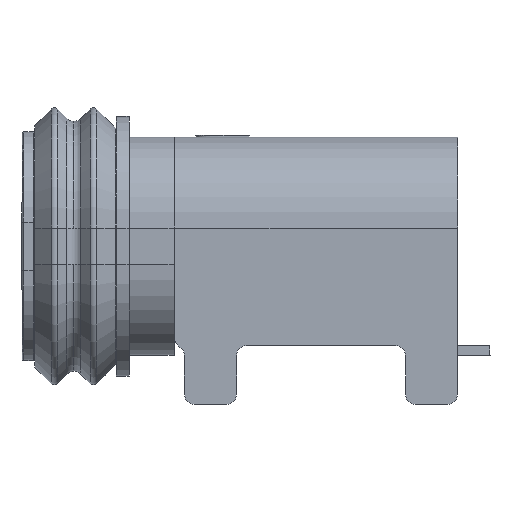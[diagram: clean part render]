
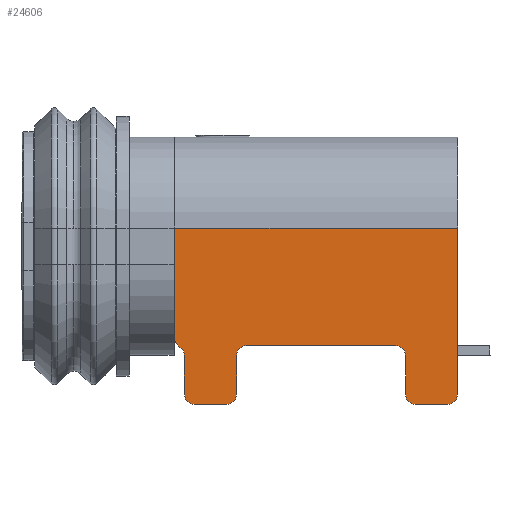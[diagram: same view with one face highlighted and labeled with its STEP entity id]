
A CAD part, left-side view. The second image highlights one B-rep face of the part: STEP entity #24606.
In plain terms, the highlighted planar face has unit normal (-1, 0, 0).
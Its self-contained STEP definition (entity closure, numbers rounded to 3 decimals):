
#211 = CIRCLE ( 'NONE', #9865, 0.15 ) ;
#238 = DIRECTION ( 'NONE',  ( 0., 1., 0. ) ) ;
#490 = ORIENTED_EDGE ( 'NONE', *, *, #16966, .T. ) ;
#864 = CARTESIAN_POINT ( 'NONE',  ( -87.767, 85.775, -4.01 ) ) ;
#873 = LINE ( 'NONE', #21529, #4610 ) ;
#1579 = VERTEX_POINT ( 'NONE', #19333 ) ;
#1948 = VERTEX_POINT ( 'NONE', #14050 ) ;
#1979 = CARTESIAN_POINT ( 'NONE',  ( -87.767, 85.825, -3.26 ) ) ;
#2303 = DIRECTION ( 'NONE',  ( 0., 0., 1. ) ) ;
#2373 = VERTEX_POINT ( 'NONE', #13507 ) ;
#2868 = CIRCLE ( 'NONE', #27558, 0.15 ) ;
#3166 = CARTESIAN_POINT ( 'NONE',  ( -87.767, 34.07, -1.3 ) ) ;
#3649 = CARTESIAN_POINT ( 'NONE',  ( -87.767, 86.925, -1.91 ) ) ;
#3754 = AXIS2_PLACEMENT_3D ( 'NONE', #5671, #10706, #21126 ) ;
#3874 = VERTEX_POINT ( 'NONE', #31286 ) ;
#4153 = AXIS2_PLACEMENT_3D ( 'NONE', #29874, #9681, #25002 ) ;
#4610 = VECTOR ( 'NONE', #21374, 1000. ) ;
#4633 = LINE ( 'NONE', #30018, #16181 ) ;
#4907 = DIRECTION ( 'NONE',  ( -1., 0., 0. ) ) ;
#5024 = ORIENTED_EDGE ( 'NONE', *, *, #8565, .T. ) ;
#5279 = ORIENTED_EDGE ( 'NONE', *, *, #18215, .T. ) ;
#5644 = CARTESIAN_POINT ( 'NONE',  ( -87.767, 86.775, -3. ) ) ;
#5671 = CARTESIAN_POINT ( 'NONE',  ( -87.767, 83.525, -3.26 ) ) ;
#5728 = VECTOR ( 'NONE', #27877, 1000. ) ;
#6039 = CARTESIAN_POINT ( 'NONE',  ( -87.767, 85.975, -3.26 ) ) ;
#6061 = EDGE_CURVE ( 'NONE', #29738, #1579, #22931, .T. ) ;
#6119 = DIRECTION ( 'NONE',  ( 0., 0., 1. ) ) ;
#6440 = CARTESIAN_POINT ( 'NONE',  ( -87.767, 82.725, -3.86 ) ) ;
#6450 = EDGE_CURVE ( 'NONE', #3874, #14686, #13100, .T. ) ;
#6632 = ORIENTED_EDGE ( 'NONE', *, *, #6450, .T. ) ;
#6713 = DIRECTION ( 'NONE',  ( 0., 0., 1. ) ) ;
#6832 = DIRECTION ( 'NONE',  ( 0., 0., 1. ) ) ;
#6865 = ORIENTED_EDGE ( 'NONE', *, *, #16556, .T. ) ;
#6946 = DIRECTION ( 'NONE',  ( 0., 0., 1. ) ) ;
#7004 = VECTOR ( 'NONE', #6832, 1000. ) ;
#7213 = LINE ( 'NONE', #24873, #5728 ) ;
#8277 = VECTOR ( 'NONE', #20337, 1000. ) ;
#8291 = VERTEX_POINT ( 'NONE', #15456 ) ;
#8322 = DIRECTION ( 'NONE',  ( -1., 0., 0. ) ) ;
#8521 = DIRECTION ( 'NONE',  ( 0., 0., -1. ) ) ;
#8565 = EDGE_CURVE ( 'NONE', #23988, #9078, #4633, .T. ) ;
#8952 = CIRCLE ( 'NONE', #32050, 0.15 ) ;
#9078 = VERTEX_POINT ( 'NONE', #6039 ) ;
#9427 = EDGE_CURVE ( 'NONE', #29738, #25507, #22013, .T. ) ;
#9681 = DIRECTION ( 'NONE',  ( -1., 0., 0. ) ) ;
#9787 = VERTEX_POINT ( 'NONE', #15728 ) ;
#9865 = AXIS2_PLACEMENT_3D ( 'NONE', #5644, #8322, #13047 ) ;
#9886 = AXIS2_PLACEMENT_3D ( 'NONE', #16649, #25037, #6713 ) ;
#10070 = CIRCLE ( 'NONE', #4153, 0.15 ) ;
#10528 = ORIENTED_EDGE ( 'NONE', *, *, #26001, .T. ) ;
#10706 = DIRECTION ( 'NONE',  ( 1., 0., 0. ) ) ;
#11006 = ORIENTED_EDGE ( 'NONE', *, *, #12138, .T. ) ;
#11443 = CARTESIAN_POINT ( 'NONE',  ( -87.767, 86.775, -3.26 ) ) ;
#11531 = VERTEX_POINT ( 'NONE', #11638 ) ;
#11546 = LINE ( 'NONE', #32210, #7004 ) ;
#11607 = LINE ( 'NONE', #864, #12177 ) ;
#11638 = CARTESIAN_POINT ( 'NONE',  ( -87.767, 83.225, -4.01 ) ) ;
#12138 = EDGE_CURVE ( 'NONE', #25472, #9787, #32431, .T. ) ;
#12177 = VECTOR ( 'NONE', #19183, 1000. ) ;
#12233 = ORIENTED_EDGE ( 'NONE', *, *, #25839, .T. ) ;
#12335 = CARTESIAN_POINT ( 'NONE',  ( -87.767, 82.725, -4.01 ) ) ;
#13047 = DIRECTION ( 'NONE',  ( 0., 0., 1. ) ) ;
#13100 = LINE ( 'NONE', #3166, #8277 ) ;
#13507 = CARTESIAN_POINT ( 'NONE',  ( -87.767, 86.925, -3. ) ) ;
#14050 = CARTESIAN_POINT ( 'NONE',  ( -87.767, 86.85, -3.13 ) ) ;
#14293 = DIRECTION ( 'NONE',  ( 0., 0., 1. ) ) ;
#14482 = DIRECTION ( 'NONE',  ( -1., 0., 0. ) ) ;
#14686 = VERTEX_POINT ( 'NONE', #32348 ) ;
#14751 = DIRECTION ( 'NONE',  ( 0., 0., 1. ) ) ;
#15108 = CARTESIAN_POINT ( 'NONE',  ( -87.767, 86.775, -3.86 ) ) ;
#15456 = CARTESIAN_POINT ( 'NONE',  ( -87.767, 86.125, -4.01 ) ) ;
#15728 = CARTESIAN_POINT ( 'NONE',  ( -87.767, 86.625, -4.01 ) ) ;
#16181 = VECTOR ( 'NONE', #14751, 1000. ) ;
#16418 = AXIS2_PLACEMENT_3D ( 'NONE', #22556, #4907, #6946 ) ;
#16556 = EDGE_CURVE ( 'NONE', #25507, #23714, #7213, .T. ) ;
#16649 = CARTESIAN_POINT ( 'NONE',  ( -87.767, 86.625, -3.86 ) ) ;
#16821 = CARTESIAN_POINT ( 'NONE',  ( -87.767, 83.225, -3.86 ) ) ;
#16966 = EDGE_CURVE ( 'NONE', #8291, #23988, #10070, .T. ) ;
#17568 = CARTESIAN_POINT ( 'NONE',  ( -87.767, 89.575, -3.11 ) ) ;
#17945 = EDGE_LOOP ( 'NONE', ( #27698, #32239, #31711, #22454, #11006, #10528, #490, #5024, #5279, #25508, #25490, #6865, #12233, #18649, #32127, #30932, #6632 ) ) ;
#18215 = EDGE_CURVE ( 'NONE', #9078, #1579, #30342, .T. ) ;
#18649 = ORIENTED_EDGE ( 'NONE', *, *, #30987, .T. ) ;
#18780 = VERTEX_POINT ( 'NONE', #11443 ) ;
#19183 = DIRECTION ( 'NONE',  ( 0., -1., 0. ) ) ;
#19251 = EDGE_CURVE ( 'NONE', #1948, #18780, #29150, .T. ) ;
#19333 = CARTESIAN_POINT ( 'NONE',  ( -87.767, 85.825, -3.11 ) ) ;
#19474 = EDGE_CURVE ( 'NONE', #32618, #28135, #2868, .T. ) ;
#19631 = VECTOR ( 'NONE', #238, 1000. ) ;
#19954 = DIRECTION ( 'NONE',  ( 1., 0., 0. ) ) ;
#20337 = DIRECTION ( 'NONE',  ( 0., 1., 0. ) ) ;
#21126 = DIRECTION ( 'NONE',  ( 0., 0., 1. ) ) ;
#21374 = DIRECTION ( 'NONE',  ( 0., 0., -1. ) ) ;
#21529 = CARTESIAN_POINT ( 'NONE',  ( -87.767, 82.575, -1.91 ) ) ;
#21952 = CARTESIAN_POINT ( 'NONE',  ( -87.767, 83.525, -3.11 ) ) ;
#21983 = CARTESIAN_POINT ( 'NONE',  ( -87.767, 83.375, -3.86 ) ) ;
#22013 = CIRCLE ( 'NONE', #3754, 0.15 ) ;
#22114 = CARTESIAN_POINT ( 'NONE',  ( -87.767, 83.375, -4.01 ) ) ;
#22454 = ORIENTED_EDGE ( 'NONE', *, *, #31051, .F. ) ;
#22556 = CARTESIAN_POINT ( 'NONE',  ( -87.767, 34.07, -1.91 ) ) ;
#22722 = EDGE_CURVE ( 'NONE', #2373, #1948, #211, .T. ) ;
#22931 = LINE ( 'NONE', #17568, #19631 ) ;
#23714 = VERTEX_POINT ( 'NONE', #21983 ) ;
#23896 = AXIS2_PLACEMENT_3D ( 'NONE', #1979, #19954, #2303 ) ;
#23941 = CARTESIAN_POINT ( 'NONE',  ( -87.767, 83.375, -3.26 ) ) ;
#23988 = VERTEX_POINT ( 'NONE', #28664 ) ;
#24606 = ADVANCED_FACE ( 'NONE', ( #32814 ), #27771, .T. ) ;
#24806 = CARTESIAN_POINT ( 'NONE',  ( -87.767, 82.575, -3.86 ) ) ;
#24873 = CARTESIAN_POINT ( 'NONE',  ( -87.767, 83.375, -3.01 ) ) ;
#24877 = EDGE_CURVE ( 'NONE', #3874, #28135, #873, .T. ) ;
#25002 = DIRECTION ( 'NONE',  ( 0., 0., 1. ) ) ;
#25037 = DIRECTION ( 'NONE',  ( -1., 0., 0. ) ) ;
#25472 = VERTEX_POINT ( 'NONE', #15108 ) ;
#25490 = ORIENTED_EDGE ( 'NONE', *, *, #9427, .T. ) ;
#25507 = VERTEX_POINT ( 'NONE', #23941 ) ;
#25508 = ORIENTED_EDGE ( 'NONE', *, *, #6061, .F. ) ;
#25839 = EDGE_CURVE ( 'NONE', #23714, #11531, #8952, .T. ) ;
#26001 = EDGE_CURVE ( 'NONE', #9787, #8291, #11607, .T. ) ;
#26014 = LINE ( 'NONE', #3649, #32247 ) ;
#27035 = CARTESIAN_POINT ( 'NONE',  ( -87.767, 86.925, -3.26 ) ) ;
#27339 = LINE ( 'NONE', #22114, #31692 ) ;
#27558 = AXIS2_PLACEMENT_3D ( 'NONE', #6440, #31665, #6119 ) ;
#27698 = ORIENTED_EDGE ( 'NONE', *, *, #30800, .T. ) ;
#27771 = PLANE ( 'NONE',  #16418 ) ;
#27877 = DIRECTION ( 'NONE',  ( 0., 0., -1. ) ) ;
#28135 = VERTEX_POINT ( 'NONE', #24806 ) ;
#28592 = AXIS2_PLACEMENT_3D ( 'NONE', #27035, #31923, #14293 ) ;
#28664 = CARTESIAN_POINT ( 'NONE',  ( -87.767, 85.975, -3.86 ) ) ;
#29150 = CIRCLE ( 'NONE', #28592, 0.15 ) ;
#29419 = DIRECTION ( 'NONE',  ( 0., 0., 1. ) ) ;
#29515 = DIRECTION ( 'NONE',  ( 0., -1., 0. ) ) ;
#29738 = VERTEX_POINT ( 'NONE', #21952 ) ;
#29874 = CARTESIAN_POINT ( 'NONE',  ( -87.767, 86.125, -3.86 ) ) ;
#30018 = CARTESIAN_POINT ( 'NONE',  ( -87.767, 85.975, -3.76 ) ) ;
#30342 = CIRCLE ( 'NONE', #23896, 0.15 ) ;
#30800 = EDGE_CURVE ( 'NONE', #14686, #2373, #26014, .T. ) ;
#30932 = ORIENTED_EDGE ( 'NONE', *, *, #24877, .F. ) ;
#30987 = EDGE_CURVE ( 'NONE', #11531, #32618, #27339, .T. ) ;
#31051 = EDGE_CURVE ( 'NONE', #25472, #18780, #11546, .T. ) ;
#31286 = CARTESIAN_POINT ( 'NONE',  ( -87.767, 82.575, -1.3 ) ) ;
#31665 = DIRECTION ( 'NONE',  ( -1., 0., 0. ) ) ;
#31692 = VECTOR ( 'NONE', #29515, 1000. ) ;
#31711 = ORIENTED_EDGE ( 'NONE', *, *, #19251, .T. ) ;
#31923 = DIRECTION ( 'NONE',  ( 1., 0., 0. ) ) ;
#32050 = AXIS2_PLACEMENT_3D ( 'NONE', #16821, #14482, #29419 ) ;
#32127 = ORIENTED_EDGE ( 'NONE', *, *, #19474, .T. ) ;
#32210 = CARTESIAN_POINT ( 'NONE',  ( -87.767, 86.775, -4.01 ) ) ;
#32239 = ORIENTED_EDGE ( 'NONE', *, *, #22722, .T. ) ;
#32247 = VECTOR ( 'NONE', #8521, 1000. ) ;
#32348 = CARTESIAN_POINT ( 'NONE',  ( -87.767, 86.925, -1.3 ) ) ;
#32431 = CIRCLE ( 'NONE', #9886, 0.15 ) ;
#32618 = VERTEX_POINT ( 'NONE', #12335 ) ;
#32814 = FACE_OUTER_BOUND ( 'NONE', #17945, .T. ) ;
